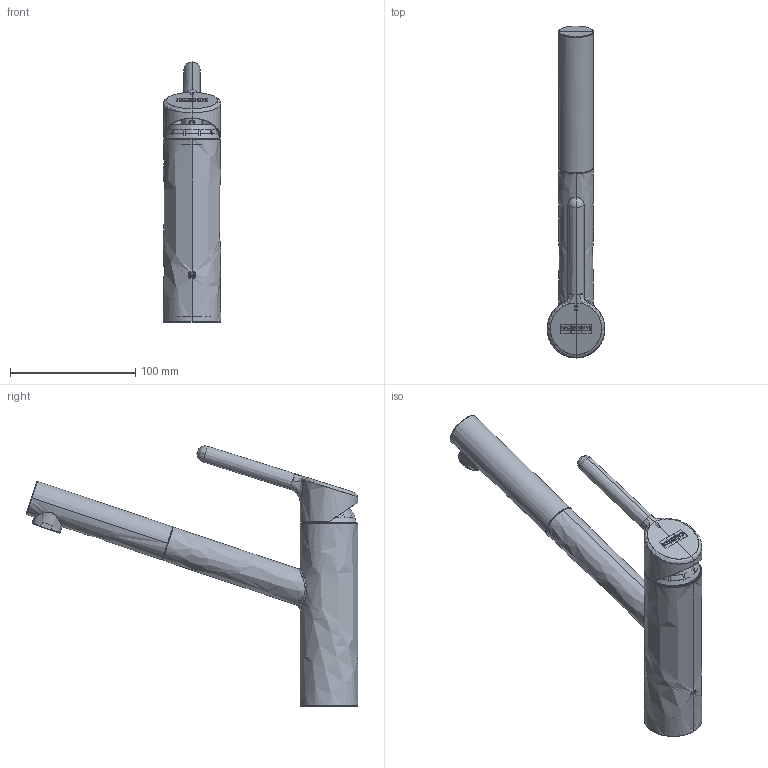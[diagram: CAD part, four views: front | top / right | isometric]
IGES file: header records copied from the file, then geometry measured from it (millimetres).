
Global section: file name: F:\_CONVERSIONE_CAD_2024_2025\03_3D kits new\08_Taps\Orbit\3D001_Taps_Orbit_Pull-Out-Nozzle\3D001_Taps_Orbit_Pull-Out-Nozzle.igs; native system: Rhinoceros ( Jan  9 2024 ); preprocessor: Trout Lake IGES 012 Jan  9 2024; date: 240131.140740; units: millimetre
Bounding box: 46.1 x 265.27 x 208.15 mm (x, y, z)
Surface area: 108093.6 mm2 (no closed solid volume)
Topology: 0 solids, 0 shells, 761 faces, 4625 edges, 4615 vertices
Faces by surface type: bspline 761
